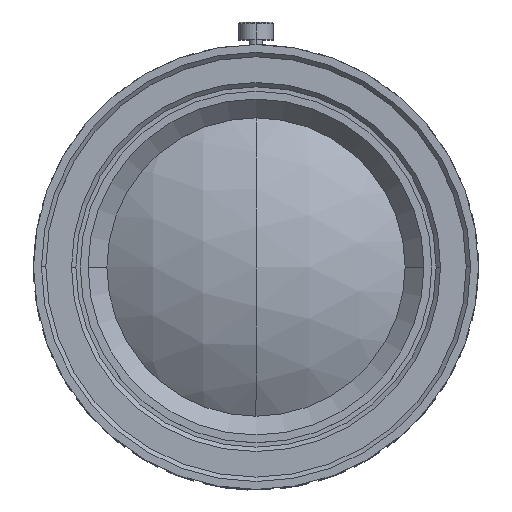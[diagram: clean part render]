
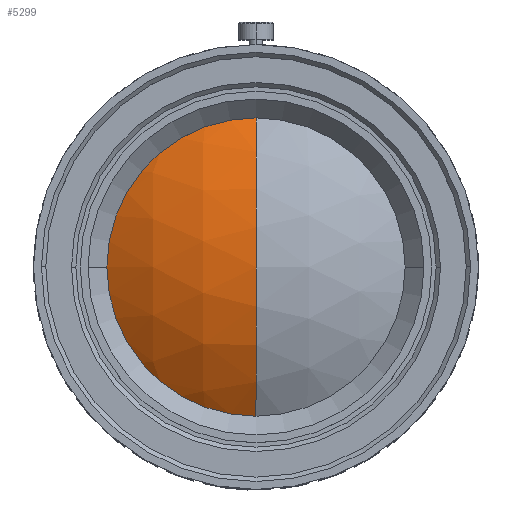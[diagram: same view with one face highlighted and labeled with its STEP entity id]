
A CAD part, top view. The second image highlights one B-rep face of the part: STEP entity #5299.
In plain terms, the highlighted spherical face has radius 29.357 mm.
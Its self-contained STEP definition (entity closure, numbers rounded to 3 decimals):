
#239 = DIRECTION ( 'NONE',  ( -1., 0., 0. ) ) ;
#524 = CIRCLE ( 'NONE', #5932, 29.357 ) ;
#799 = CARTESIAN_POINT ( 'NONE',  ( 0., 0., 37.444 ) ) ;
#938 = DIRECTION ( 'NONE',  ( 0., 0., -1. ) ) ;
#1020 = DIRECTION ( 'NONE',  ( 1., 0., 0. ) ) ;
#1116 = DIRECTION ( 'NONE',  ( 0., 1., 0. ) ) ;
#1146 = CIRCLE ( 'NONE', #11531, 17.1 ) ;
#1764 = EDGE_CURVE ( 'NONE', #9734, #11635, #6904, .T. ) ;
#1860 = CARTESIAN_POINT ( 'NONE',  ( 0., 0., 37.444 ) ) ;
#1931 = EDGE_CURVE ( 'NONE', #11635, #4972, #1146, .T. ) ;
#2294 = CARTESIAN_POINT ( 'NONE',  ( 0., 17.1, 61.306 ) ) ;
#2511 = DIRECTION ( 'NONE',  ( 0., 0., 1. ) ) ;
#2987 = CARTESIAN_POINT ( 'NONE',  ( 0., 0., 66.801 ) ) ;
#4721 = FACE_OUTER_BOUND ( 'NONE', #9682, .T. ) ;
#4810 = AXIS2_PLACEMENT_3D ( 'NONE', #8002, #2511, #8948 ) ;
#4964 = VERTEX_POINT ( 'NONE', #2987 ) ;
#4972 = VERTEX_POINT ( 'NONE', #8493 ) ;
#5022 = ORIENTED_EDGE ( 'NONE', *, *, #1931, .T. ) ;
#5074 = ORIENTED_EDGE ( 'NONE', *, *, #1764, .T. ) ;
#5299 = ADVANCED_FACE ( 'NONE', ( #4721 ), #11782, .T. ) ;
#5670 = DIRECTION ( 'NONE',  ( -1., 0., 0. ) ) ;
#5757 = DIRECTION ( 'NONE',  ( 0., -1., 0. ) ) ;
#5932 = AXIS2_PLACEMENT_3D ( 'NONE', #6679, #239, #5757 ) ;
#6679 = CARTESIAN_POINT ( 'NONE',  ( 0., 0., 37.444 ) ) ;
#6904 = CIRCLE ( 'NONE', #4810, 17.1 ) ;
#7375 = DIRECTION ( 'NONE',  ( 1., 0., 0. ) ) ;
#7441 = DIRECTION ( 'NONE',  ( 0., 0., 1. ) ) ;
#8002 = CARTESIAN_POINT ( 'NONE',  ( 0., 0., 61.306 ) ) ;
#8493 = CARTESIAN_POINT ( 'NONE',  ( 0., -17.1, 61.306 ) ) ;
#8569 = CIRCLE ( 'NONE', #9743, 29.357 ) ;
#8948 = DIRECTION ( 'NONE',  ( 1., 0., 0. ) ) ;
#9682 = EDGE_LOOP ( 'NONE', ( #5022, #10845, #10411, #5074 ) ) ;
#9734 = VERTEX_POINT ( 'NONE', #2294 ) ;
#9743 = AXIS2_PLACEMENT_3D ( 'NONE', #1860, #7375, #938 ) ;
#10051 = CARTESIAN_POINT ( 'NONE',  ( -17.1, 0., 61.306 ) ) ;
#10269 = AXIS2_PLACEMENT_3D ( 'NONE', #799, #5670, #1116 ) ;
#10322 = CARTESIAN_POINT ( 'NONE',  ( 0., 0., 61.306 ) ) ;
#10411 = ORIENTED_EDGE ( 'NONE', *, *, #11554, .F. ) ;
#10712 = EDGE_CURVE ( 'NONE', #4972, #4964, #524, .T. ) ;
#10845 = ORIENTED_EDGE ( 'NONE', *, *, #10712, .T. ) ;
#11531 = AXIS2_PLACEMENT_3D ( 'NONE', #10322, #7441, #1020 ) ;
#11554 = EDGE_CURVE ( 'NONE', #9734, #4964, #8569, .T. ) ;
#11635 = VERTEX_POINT ( 'NONE', #10051 ) ;
#11782 = SPHERICAL_SURFACE ( 'NONE', #10269, 29.357 ) ;
